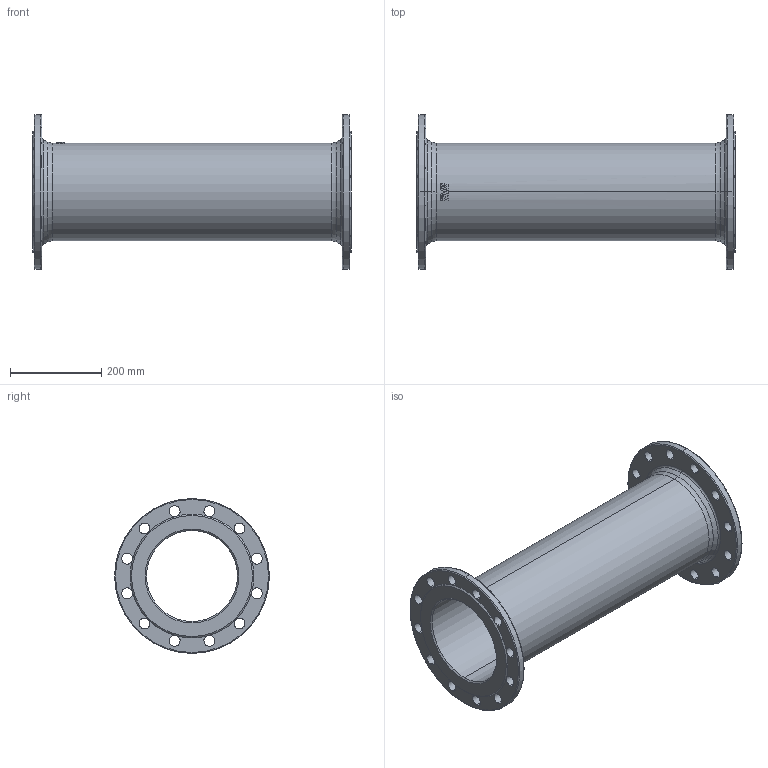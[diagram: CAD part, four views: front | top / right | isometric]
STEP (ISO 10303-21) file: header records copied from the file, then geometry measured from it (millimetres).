
FILE_DESCRIPTION (( 'STEP AP203' ), '1' );
FILE_NAME ('O_712_5010_DN200_1X_REV01.step', '2021-12-03T09:49:03', ( '' ), ( '' ), 'SwSTEP 2.0', 'SolidWorks 2019', '' );
FILE_SCHEMA (( 'CONFIG_CONTROL_DESIGN' ));
Length unit declared in the file: millimetre
Products named in the file (1): O_712_5010_DN200_1X_REV01
Bounding box: 700 x 340 x 340 mm (x, y, z)
Volume: 5317730.1 mm3; surface area: 1145822.8 mm2
Topology: 1 solids, 1 shells, 132 faces, 417 edges, 270 vertices
Faces by surface type: cylinder 61, plane 24, bspline 19, torus 16, cone 12
Entity records: 5985 total; most frequent: CARTESIAN_POINT 2270, ORIENTED_EDGE 834, DIRECTION 716, EDGE_CURVE 417, AXIS2_PLACEMENT_3D 314, VERTEX_POINT 270, CIRCLE 200, EDGE_LOOP 165
